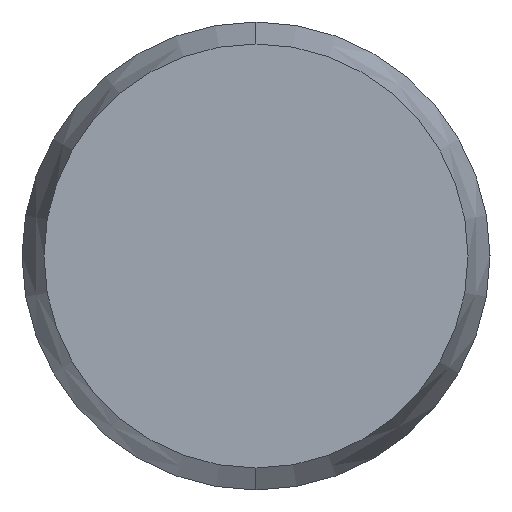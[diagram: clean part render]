
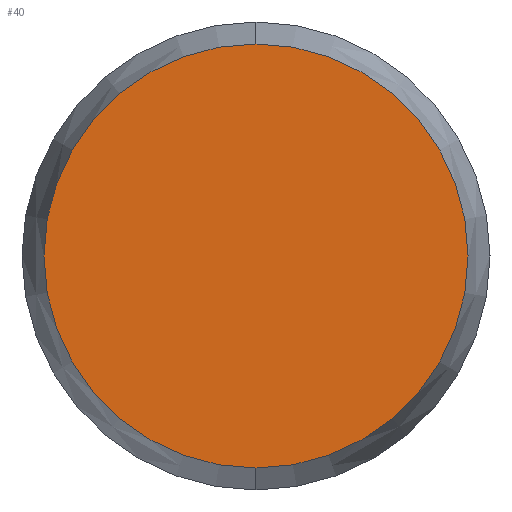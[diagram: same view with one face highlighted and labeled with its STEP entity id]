
A CAD part, left-side view. The second image highlights one B-rep face of the part: STEP entity #40.
In plain terms, the highlighted planar face has unit normal (-1, 0, 0).
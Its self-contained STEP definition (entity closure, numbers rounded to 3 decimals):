
#1 = VERTEX_POINT ( 'NONE', #23 ) ;
#2 = VERTEX_POINT ( 'NONE', #27 ) ;
#4 = EDGE_CURVE ( 'NONE', #2, #1, #32, .T. ) ;
#23 = CARTESIAN_POINT ( 'NONE',  ( -18., 0., -1.812 ) ) ;
#27 = CARTESIAN_POINT ( 'NONE',  ( -18., 0., 1.812 ) ) ;
#28 = DIRECTION ( 'NONE',  ( 0., 0., -1. ) ) ;
#29 = DIRECTION ( 'NONE',  ( 1., 0., 0. ) ) ;
#30 = CARTESIAN_POINT ( 'NONE',  ( -18., 0., 0. ) ) ;
#31 = AXIS2_PLACEMENT_3D ( 'NONE', #30, #29, #28 ) ;
#32 = CIRCLE ( 'NONE', #31, 1.812 ) ;
#37 = EDGE_CURVE ( 'NONE', #1, #2, #275, .T. ) ;
#40 = ADVANCED_FACE ( 'NONE', ( #272 ), #257, .F. ) ;
#41 = EDGE_LOOP ( 'NONE', ( #89, #90 ) ) ;
#89 = ORIENTED_EDGE ( 'NONE', *, *, #4, .F. ) ;
#90 = ORIENTED_EDGE ( 'NONE', *, *, #37, .F. ) ;
#242 = DIRECTION ( 'NONE',  ( 0., 0., -1. ) ) ;
#243 = DIRECTION ( 'NONE',  ( 1., 0., 0. ) ) ;
#244 = CARTESIAN_POINT ( 'NONE',  ( -18., 0., 0. ) ) ;
#245 = AXIS2_PLACEMENT_3D ( 'NONE', #244, #243, #242 ) ;
#257 = PLANE ( 'NONE',  #245 ) ;
#258 = DIRECTION ( 'NONE',  ( 0., 0., -1. ) ) ;
#259 = DIRECTION ( 'NONE',  ( 1., 0., 0. ) ) ;
#272 = FACE_OUTER_BOUND ( 'NONE', #41, .T. ) ;
#273 = CARTESIAN_POINT ( 'NONE',  ( -18., 0., 0. ) ) ;
#274 = AXIS2_PLACEMENT_3D ( 'NONE', #273, #259, #258 ) ;
#275 = CIRCLE ( 'NONE', #274, 1.812 ) ;
